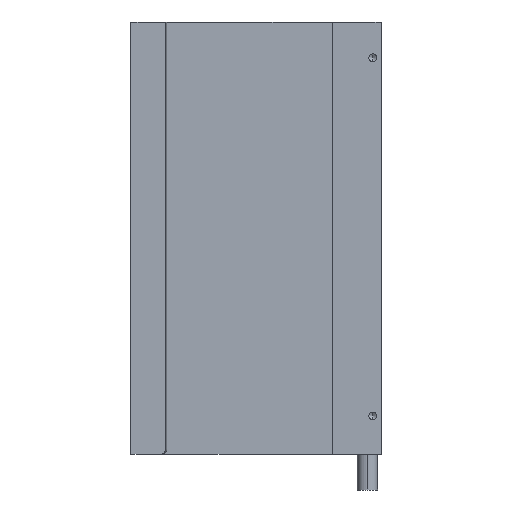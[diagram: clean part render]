
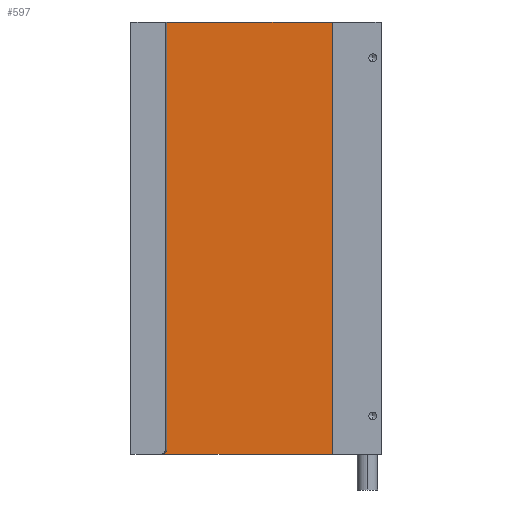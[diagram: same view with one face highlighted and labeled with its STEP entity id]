
A CAD part, left-side view. The second image highlights one B-rep face of the part: STEP entity #597.
In plain terms, the highlighted planar face has unit normal (-1, 0, 0).
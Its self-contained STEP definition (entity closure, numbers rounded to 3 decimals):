
#23 = EDGE_CURVE ( 'NONE', #2164, #2517, #2669, .T. ) ;
#29 = CARTESIAN_POINT ( 'NONE',  ( -6.6, 91.803, -90.5 ) ) ;
#95 = CARTESIAN_POINT ( 'NONE',  ( -6.6, 89.8, -88.5 ) ) ;
#292 = ORIENTED_EDGE ( 'NONE', *, *, #3158, .T. ) ;
#338 = CARTESIAN_POINT ( 'NONE',  ( -6.6, 89.8, 90.5 ) ) ;
#382 = CARTESIAN_POINT ( 'NONE',  ( -6.6, 90.63, -90.5 ) ) ;
#499 = LINE ( 'NONE', #338, #1891 ) ;
#513 = DIRECTION ( 'NONE',  ( 0., 1., 0. ) ) ;
#558 = ORIENTED_EDGE ( 'NONE', *, *, #3274, .F. ) ;
#597 = ADVANCED_FACE ( 'NONE', ( #1450 ), #1308, .F. ) ;
#958 = EDGE_CURVE ( 'NONE', #1940, #2517, #1762, .T. ) ;
#1025 =( BOUNDED_CURVE ( )  B_SPLINE_CURVE ( 3, ( #95, #1516, #382, #2062 ),
 .UNSPECIFIED., .F., .F. ) 
 B_SPLINE_CURVE_WITH_KNOTS ( ( 4, 4 ),
 ( 3.142, 4.712 ),
 .UNSPECIFIED. ) 
 CURVE ( )  GEOMETRIC_REPRESENTATION_ITEM ( )  RATIONAL_B_SPLINE_CURVE ( ( 1., 0.805, 0.805, 1. ) ) 
 REPRESENTATION_ITEM ( '' )  );
#1308 = PLANE ( 'NONE',  #2629 ) ;
#1428 = VECTOR ( 'NONE', #1467, 1000. ) ;
#1450 = FACE_OUTER_BOUND ( 'NONE', #2963, .T. ) ;
#1467 = DIRECTION ( 'NONE',  ( 0., 0., -1. ) ) ;
#1471 = CARTESIAN_POINT ( 'NONE',  ( -6.6, 20.5, -90.5 ) ) ;
#1478 = CARTESIAN_POINT ( 'NONE',  ( -6.6, 20.5, 90.5 ) ) ;
#1516 = CARTESIAN_POINT ( 'NONE',  ( -6.6, 89.8, -89.672 ) ) ;
#1642 = VERTEX_POINT ( 'NONE', #2154 ) ;
#1703 = CARTESIAN_POINT ( 'NONE',  ( -6.6, 20.5, 90.5 ) ) ;
#1723 = ORIENTED_EDGE ( 'NONE', *, *, #23, .F. ) ;
#1762 = LINE ( 'NONE', #2082, #3057 ) ;
#1836 = CARTESIAN_POINT ( 'NONE',  ( -6.6, 20.5, 90.5 ) ) ;
#1891 = VECTOR ( 'NONE', #2569, 1000. ) ;
#1940 = VERTEX_POINT ( 'NONE', #29 ) ;
#2015 = EDGE_CURVE ( 'NONE', #2343, #1940, #1025, .T. ) ;
#2028 = VECTOR ( 'NONE', #3372, 1000. ) ;
#2062 = CARTESIAN_POINT ( 'NONE',  ( -6.6, 91.803, -90.5 ) ) ;
#2082 = CARTESIAN_POINT ( 'NONE',  ( -6.6, 20.5, -90.5 ) ) ;
#2154 = CARTESIAN_POINT ( 'NONE',  ( -6.6, 89.8, 90.5 ) ) ;
#2164 = VERTEX_POINT ( 'NONE', #1836 ) ;
#2198 = DIRECTION ( 'NONE',  ( 1., 0., 0. ) ) ;
#2216 = CARTESIAN_POINT ( 'NONE',  ( -6.6, 89.8, -88.5 ) ) ;
#2343 = VERTEX_POINT ( 'NONE', #2216 ) ;
#2511 = CARTESIAN_POINT ( 'NONE',  ( -6.6, 20.5, 90.5 ) ) ;
#2517 = VERTEX_POINT ( 'NONE', #1471 ) ;
#2546 = LINE ( 'NONE', #1703, #2028 ) ;
#2569 = DIRECTION ( 'NONE',  ( 0., 0., -1. ) ) ;
#2629 = AXIS2_PLACEMENT_3D ( 'NONE', #2511, #2198, #513 ) ;
#2650 = DIRECTION ( 'NONE',  ( 0., -1., 0. ) ) ;
#2669 = LINE ( 'NONE', #1478, #1428 ) ;
#2963 = EDGE_LOOP ( 'NONE', ( #2992, #1723, #558, #292, #3217 ) ) ;
#2992 = ORIENTED_EDGE ( 'NONE', *, *, #958, .T. ) ;
#3057 = VECTOR ( 'NONE', #2650, 1000. ) ;
#3158 = EDGE_CURVE ( 'NONE', #1642, #2343, #499, .T. ) ;
#3217 = ORIENTED_EDGE ( 'NONE', *, *, #2015, .T. ) ;
#3274 = EDGE_CURVE ( 'NONE', #1642, #2164, #2546, .T. ) ;
#3372 = DIRECTION ( 'NONE',  ( 0., -1., 0. ) ) ;
